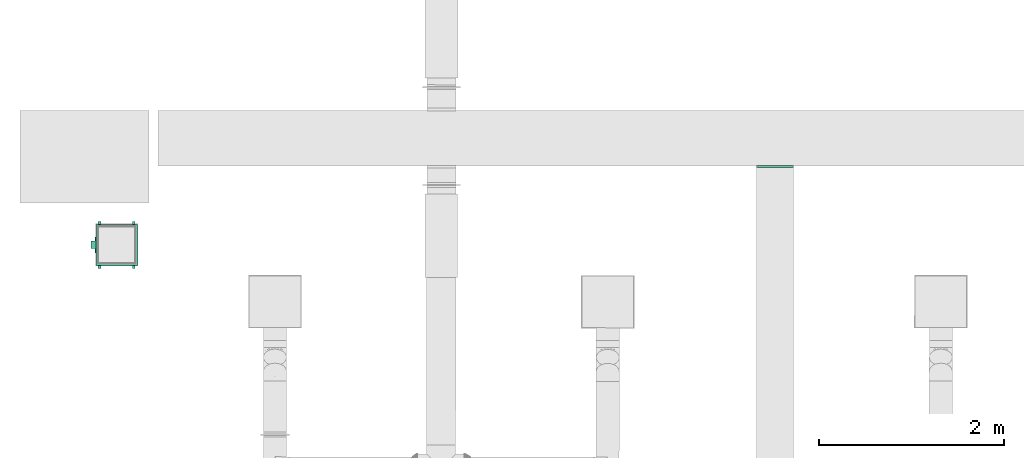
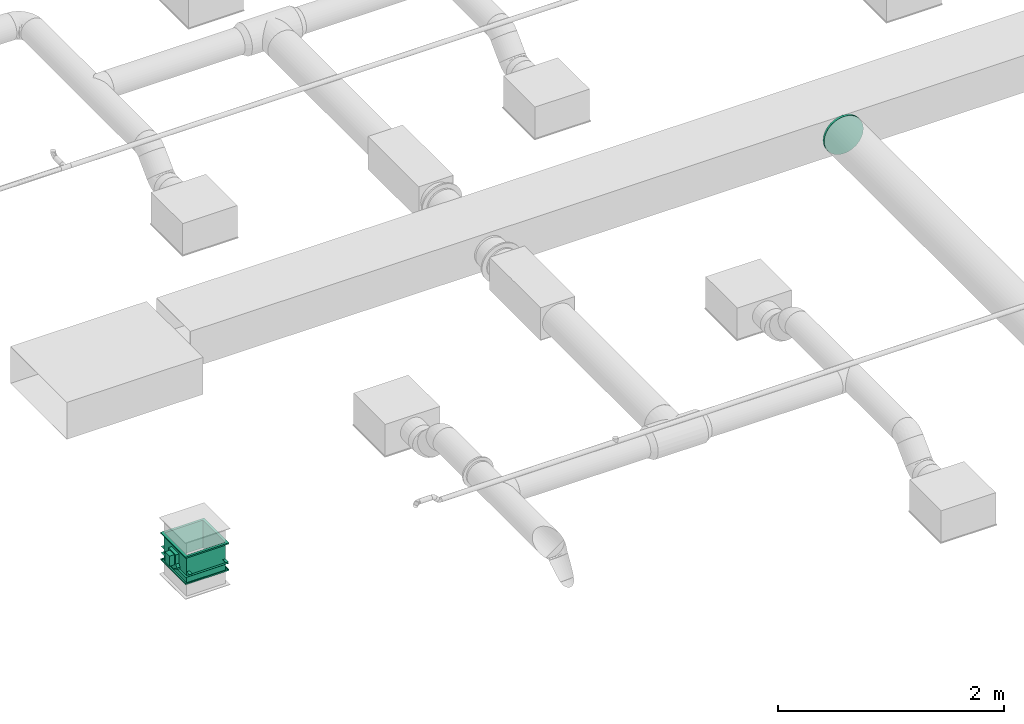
# One storey, part 58 of 63: 1 flow controller, 1 flow fitting.
"""IFC2X3 building model written with IfcOpenShell, lengths in millimetres."""

from ifc_helpers import new_model, entity, si_unit, converted_unit, derived_unit, direction, frame, origin_with_axes, place, context, subcontext, project, spatial, open_shell, surface_model, source, transform, mapped, type_object, element, save


model = new_model("IFC2X3")

# Units and contexts
model_context = context("Model", 3, precision=0.01, world=frame((0.0, 4.29681676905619e-09, 0.0)), true_north=direction((4.01073788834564e-13, 1.0)))
plan_context = context("Plan", 3, precision=0.01, world=frame((0.0, 4.29681676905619e-09, 0.0)), true_north=direction((4.01073788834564e-13, 1.0)))
body_context = subcontext(model_context, "Body", "Model", "MODEL_VIEW")
ifc_project = project(units=[converted_unit("PLANEANGLEUNIT", "DEGREE", entity("IfcPositiveLengthMeasure", 0.0174532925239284), si_unit("PLANEANGLEUNIT", "RADIAN"), dimensions=[0, 0, 0, 0, 0, 0, 0]), si_unit("AREAUNIT", "SQUARE_METRE"), si_unit("LENGTHUNIT", "METRE", prefix="MILLI"), si_unit("MASSUNIT", "GRAM", prefix="KILO"), si_unit("POWERUNIT", "WATT"), si_unit("PRESSUREUNIT", "PASCAL"), si_unit("FORCEUNIT", "NEWTON", prefix="KILO"), si_unit("ELECTRICVOLTAGEUNIT", "VOLT"), si_unit("ELECTRICCURRENTUNIT", "AMPERE"), si_unit("THERMODYNAMICTEMPERATUREUNIT", "DEGREE_CELSIUS"), si_unit("TIMEUNIT", "SECOND"), si_unit("VOLUMEUNIT", "CUBIC_METRE"), derived_unit("LINEARVELOCITYUNIT", [(si_unit("LENGTHUNIT", "METRE"), 1), (si_unit("TIMEUNIT", "SECOND"), -1)]), derived_unit("VOLUMETRICFLOWRATEUNIT", [(si_unit("VOLUMEUNIT", "CUBIC_METRE"), 1), (si_unit("TIMEUNIT", "SECOND"), -1)]), derived_unit("THERMALTRANSMITTANCEUNIT", [(si_unit("POWERUNIT", "WATT"), 1), (si_unit("THERMODYNAMICTEMPERATUREUNIT", "KELVIN"), -1), (si_unit("AREAUNIT", "SQUARE_METRE"), -1)]), derived_unit("SOUNDPRESSUREUNIT", [(si_unit("PRESSUREUNIT", "PASCAL"), 1)])], contexts=[model_context, plan_context])

# Site, building, storey
site_placement = place(None, frame((0.0, -4.29681676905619e-09, 0.0), z_axis=(0.0, 0.0, 1.0), x_axis=(1.0, 0.0, 0.0)))
site = spatial("IfcSite", under=ifc_project, at=site_placement, CompositionType="ELEMENT")
building_placement = place(site_placement, frame((0.0, 4.29681676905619e-09, 0.0), z_axis=(0.0, 0.0, 1.0), x_axis=(1.0, 0.0, 0.0)))
building = spatial("IfcBuilding", under=site, at=building_placement, Name="mc-building", CompositionType="ELEMENT")
storey_placement = place(building_placement, frame((0.0, 0.0, 210900.0), z_axis=(0.0, 0.0, 1.0), x_axis=(1.0, 0.0, 0.0)))
storey = spatial("IfcBuildingStorey", under=building, at=storey_placement, Name="Nivå F", CompositionType="ELEMENT", Elevation=210900.0)

# Flow controller
damper_type = type_object("IfcDamperType", Name="ABC-CU-LT 400 400 Belimo 24V", PredefinedType="FIREDAMPER")
shared_shape_1 = source(origin_with_axes(), body_context, "Body", "SurfaceModel", [
    surface_model("IfcShellBasedSurfaceModel", [(136.0, 0.0, 214.99999), (136.0, 0.0, 222.0), (138.0, 0.0, 220.0), (138.0, 0.0, 214.99999), (148.0, 0.0, 198.0), (126.0, 0.0, 197.0), (126.0, 0.0, 198.0), (148.0, 0.0, 220.0), (150.0, 0.0, 197.0), (150.0, 0.0, 222.0), (150.0, -222.0, 222.0), (136.0, -222.0, 222.0), (150.0, -197.0, 197.0), (150.0, 0.0, -222.0), (150.0, 0.0, -197.0), (150.0, -197.0, -197.0), (150.0, -222.0, -222.0), (126.0, -197.0, 197.0), (126.0, 0.0, -197.0), (126.0, 0.0, -198.0), (126.0, -197.0, -197.0), (126.0, -198.0, -198.0), (126.0, -198.0, 198.0), (148.0, -198.0, 198.0), (148.0, 0.0, -198.0), (148.0, 0.0, -220.0), (148.0, -198.0, -198.0), (148.0, -220.0, -220.0), (148.0, -220.0, 220.0), (138.0, -220.0, 220.0), (138.0, -214.99999, 214.99999), (138.0, 0.0, -220.0), (138.0, 0.0, -214.99999), (138.0, -214.99999, -214.99999), (138.0, -220.0, -220.0), (136.0, -214.99999, 214.99999), (136.0, 0.0, -214.99999), (136.0, 0.0, -222.0), (136.0, -214.99999, -214.99999), (136.0, -222.0, -222.0), (136.0, 214.99999, 214.99999), (136.0, 214.99999, -214.99999), (136.0, 222.0, 222.0), (136.0, 222.0, -222.0), (138.0, 214.99999, 214.99999), (138.0, 214.99999, -214.99999), (138.0, 220.0, -220.0), (138.0, 220.0, 220.0), (148.0, 220.0, 220.0), (148.0, 198.0, 198.0), (148.0, 198.0, -198.0), (148.0, 220.0, -220.0), (126.0, 198.0, 198.0), (126.0, 197.0, 197.0), (126.0, 197.0, -197.0), (126.0, 198.0, -198.0), (150.0, 197.0, 197.0), (150.0, 197.0, -197.0), (150.0, 222.0, -222.0), (150.0, 222.0, 222.0), (-148.0, 0.0, 220.0), (-148.0, 0.0, 198.0), (-150.0, 0.0, 197.0), (-126.0, 0.0, 197.0), (-150.0, 0.0, 222.0), (-136.0, 0.0, 222.0), (-136.0, 0.0, 214.99999), (-138.0, 0.0, 220.0), (-138.0, 0.0, 214.99999), (-126.0, 0.0, 198.0), (-136.0, -214.99999, 214.99999), (-136.0, 0.0, -222.0), (-136.0, 0.0, -214.99999), (-136.0, -214.99999, -214.99999), (-136.0, -222.0, 222.0), (-136.0, -222.0, -222.0), (-138.0, -214.99999, 214.99999), (-138.0, 0.0, -214.99999), (-138.0, 0.0, -220.0), (-138.0, -214.99999, -214.99999), (-138.0, -220.0, -220.0), (-138.0, -220.0, 220.0), (-148.0, -220.0, 220.0), (-148.0, -198.0, 198.0), (-148.0, 0.0, -220.0), (-148.0, 0.0, -198.0), (-148.0, -198.0, -198.0), (-148.0, -220.0, -220.0), (-126.0, -198.0, 198.0), (-126.0, -197.0, 197.0), (-126.0, 0.0, -198.0), (-126.0, 0.0, -197.0), (-126.0, -197.0, -197.0), (-126.0, -198.0, -198.0), (-150.0, -197.0, 197.0), (-150.0, 0.0, -197.0), (-150.0, 0.0, -222.0), (-150.0, -197.0, -197.0), (-150.0, -222.0, -222.0), (-150.0, -222.0, 222.0), (-150.0, 222.0, 222.0), (-136.0, 222.0, 222.0), (-150.0, 197.0, 197.0), (-150.0, 197.0, -197.0), (-150.0, 222.0, -222.0), (-126.0, 197.0, 197.0), (-126.0, 197.0, -197.0), (-126.0, 198.0, -198.0), (-126.0, 198.0, 198.0), (-148.0, 198.0, 198.0), (-148.0, 198.0, -198.0), (-148.0, 220.0, -220.0), (-148.0, 220.0, 220.0), (-138.0, 220.0, 220.0), (-138.0, 214.99999, 214.99999), (-138.0, 214.99999, -214.99999), (-138.0, 220.0, -220.0), (-136.0, 214.99999, 214.99999), (-136.0, 214.99999, -214.99999), (-136.0, 222.0, -222.0), (148.0, -200.0, -200.0), (148.0, -197.0, -197.0), (148.0, -197.0, 197.0), (148.0, 197.0, -197.0), (148.0, -200.0, 200.0), (148.0, 197.0, 197.0), (148.0, 200.0, -200.0), (148.0, 200.0, 200.0), (-148.0, 200.0, -200.0), (-148.0, 197.0, -197.0), (-148.0, 197.0, 197.0), (-148.0, -197.0, -197.0), (-148.0, 200.0, 200.0), (-148.0, -197.0, 197.0), (-148.0, -200.0, -200.0), (-148.0, -200.0, 200.0), (72.0, -220.0, -222.0), (72.0, -198.0, -198.0), (72.0, -198.0, 198.0), (72.0, 198.0, -198.0), (72.0, -220.0, 222.0), (72.0, 198.0, 198.0), (72.0, 220.0, -222.0), (72.0, 220.0, 222.0), (70.0, 220.0, -222.0), (70.0, 198.0, -198.0), (70.0, 198.0, 198.0), (70.0, -198.0, -198.0), (70.0, 220.0, 222.0), (70.0, -198.0, 198.0), (70.0, -220.0, -222.0), (70.0, -220.0, 222.0), (-83.0, -233.0, -66.0), (17.0, -233.0, -66.0), (-83.0, -233.0, 66.0), (17.0, -233.0, 66.0), (65.0, -233.0, -86.0), (65.0, -233.0, 86.0), (47.0, -233.0, 86.0), (47.0, -233.0, -86.0), (17.0, -200.0, 66.0), (65.0, -200.0, 86.0), (65.0, -200.0, -86.0), (47.0, -200.0, 86.0), (47.0, -200.0, -86.0), (17.0, -200.0, -66.0), (-83.0, -200.0, -66.0), (-83.0, -200.0, 66.0), (90.0, -225.0, 25.0), (65.0, -225.0, 66.0), (65.0, -225.0, -66.0), (100.0, -225.0, 25.0), (100.0, -225.0, -25.0), (90.0, -225.0, -25.0), (90.0, -200.0, -25.0), (65.0, -200.0, -66.0), (65.0, -200.0, 66.0), (100.0, -200.0, -25.0), (100.0, -200.0, 25.0), (90.0, -200.0, 25.0), (39.0, -233.0, -40.0), (-71.0, -233.0, -40.0), (39.0, -233.0, 40.0), (-71.0, -233.0, 40.0), (39.0, -281.0, 40.0), (-71.0, -281.0, 40.0), (39.0, -281.0, -40.0), (-71.0, -281.0, -40.0), (28.0, 200.0, 253.0), (28.0, 200.0, 200.0), (28.0, 170.0, 200.0), (28.0, 170.0, 253.0), (30.0, 170.0, 253.0), (30.0, 170.0, 200.0), (30.0, 200.0, 200.0), (30.0, 200.0, 253.0), (28.0, -170.0, 253.0), (28.0, -170.0, 200.0), (28.0, -200.0, 200.0), (28.0, -200.0, 253.0), (30.0, -200.0, 253.0), (30.0, -200.0, 200.0), (30.0, -170.0, 200.0), (30.0, -170.0, 253.0), (28.0, -170.0, -200.0), (28.0, -170.0, -253.0), (28.0, -200.0, -253.0), (28.0, -200.0, -200.0), (30.0, -200.0, -200.0), (30.0, -200.0, -253.0), (30.0, -170.0, -253.0), (30.0, -170.0, -200.0), (28.0, 200.0, -200.0), (28.0, 200.0, -253.0), (28.0, 170.0, -253.0), (28.0, 170.0, -200.0), (30.0, 170.0, -200.0), (30.0, 170.0, -253.0), (30.0, 200.0, -253.0), (30.0, 200.0, -200.0)], [open_shell([[[0, 1, 2]], [[3, 0, 2]], [[4, 5, 6]], [[7, 8, 4]], [[5, 4, 8]], [[1, 9, 7]], [[8, 7, 9]], [[2, 1, 7]], [[9, 1, 10]], [[11, 10, 1]], [[8, 9, 12]], [[13, 14, 15]], [[12, 10, 15]], [[10, 12, 9]], [[15, 16, 13]], [[16, 15, 10]], [[5, 8, 17]], [[12, 17, 8]], [[18, 19, 20]], [[6, 5, 17]], [[20, 21, 17]], [[21, 20, 19]], [[17, 22, 6]], [[22, 17, 21]], [[4, 6, 22]], [[22, 23, 4]], [[24, 25, 26]], [[7, 4, 23]], [[26, 27, 23]], [[27, 26, 25]], [[23, 28, 7]], [[28, 23, 27]], [[2, 7, 29]], [[28, 29, 7]], [[3, 2, 30]], [[31, 32, 33]], [[30, 29, 33]], [[29, 30, 2]], [[33, 34, 31]], [[34, 33, 29]], [[0, 3, 35]], [[30, 35, 3]], [[36, 37, 38]], [[1, 0, 35]], [[38, 39, 35]], [[39, 38, 37]], [[35, 11, 1]], [[11, 35, 39]], [[10, 11, 39]], [[39, 16, 10]], [[17, 12, 15]], [[15, 20, 17]], [[23, 22, 21]], [[21, 26, 23]], [[29, 28, 27]], [[27, 34, 29]], [[35, 30, 33]], [[33, 38, 35]], [[31, 37, 36]], [[31, 36, 32]], [[19, 18, 24]], [[24, 14, 25]], [[14, 24, 18]], [[25, 13, 37]], [[13, 25, 14]], [[25, 37, 31]], [[16, 39, 13]], [[37, 13, 39]], [[20, 15, 18]], [[14, 18, 15]], [[26, 21, 19]], [[19, 24, 26]], [[34, 27, 31]], [[25, 31, 27]], [[38, 33, 36]], [[32, 36, 33]], [[2, 0, 3]], [[6, 5, 4]], [[2, 1, 0]], [[8, 9, 7]], [[1, 2, 7]], [[8, 7, 4]], [[5, 8, 4]], [[9, 1, 7]], [[0, 1, 40]], [[37, 36, 41]], [[40, 42, 41]], [[42, 40, 1]], [[41, 43, 37]], [[43, 41, 42]], [[3, 0, 40]], [[40, 44, 3]], [[32, 31, 45]], [[2, 3, 44]], [[45, 46, 44]], [[46, 45, 31]], [[44, 47, 2]], [[47, 44, 46]], [[7, 2, 47]], [[47, 48, 7]], [[4, 7, 49]], [[25, 24, 50]], [[49, 48, 50]], [[48, 49, 7]], [[50, 51, 25]], [[51, 50, 48]], [[6, 4, 52]], [[49, 52, 4]], [[5, 6, 53]], [[19, 18, 54]], [[53, 52, 54]], [[52, 53, 6]], [[54, 55, 19]], [[55, 54, 52]], [[8, 5, 53]], [[53, 56, 8]], [[14, 13, 57]], [[9, 8, 56]], [[57, 58, 56]], [[58, 57, 13]], [[56, 59, 9]], [[59, 56, 58]], [[1, 9, 42]], [[59, 42, 9]], [[44, 40, 45]], [[41, 45, 40]], [[48, 47, 51]], [[46, 51, 47]], [[52, 49, 50]], [[50, 55, 52]], [[56, 53, 57]], [[54, 57, 53]], [[42, 59, 43]], [[58, 43, 59]], [[32, 36, 31]], [[24, 18, 19]], [[36, 37, 31]], [[25, 13, 14]], [[25, 31, 37]], [[24, 25, 14]], [[24, 14, 18]], [[25, 37, 13]], [[45, 41, 36]], [[36, 32, 45]], [[51, 46, 31]], [[31, 25, 51]], [[55, 50, 19]], [[24, 19, 50]], [[57, 54, 18]], [[18, 14, 57]], [[43, 58, 37]], [[13, 37, 58]], [[60, 61, 62]], [[63, 62, 61]], [[60, 64, 65]], [[62, 64, 60]], [[65, 66, 67]], [[68, 67, 66]], [[60, 65, 67]], [[63, 61, 69]], [[66, 65, 70]], [[71, 72, 73]], [[70, 74, 73]], [[74, 70, 65]], [[73, 75, 71]], [[75, 73, 74]], [[68, 66, 76]], [[70, 76, 66]], [[77, 78, 79]], [[67, 68, 76]], [[79, 80, 76]], [[80, 79, 78]], [[76, 81, 67]], [[81, 76, 80]], [[60, 67, 82]], [[81, 82, 67]], [[61, 60, 83]], [[84, 85, 86]], [[83, 82, 86]], [[82, 83, 60]], [[86, 87, 84]], [[87, 86, 82]], [[69, 61, 83]], [[83, 88, 69]], [[63, 69, 89]], [[90, 91, 92]], [[89, 88, 92]], [[88, 89, 69]], [[92, 93, 90]], [[93, 92, 88]], [[62, 63, 94]], [[89, 94, 63]], [[95, 96, 97]], [[64, 62, 94]], [[97, 98, 94]], [[98, 97, 96]], [[94, 99, 64]], [[99, 94, 98]], [[65, 64, 74]], [[99, 74, 64]], [[76, 70, 73]], [[73, 79, 76]], [[82, 81, 80]], [[80, 87, 82]], [[88, 83, 86]], [[86, 93, 88]], [[94, 89, 92]], [[92, 97, 94]], [[74, 99, 98]], [[98, 75, 74]], [[95, 85, 84]], [[85, 95, 91]], [[71, 96, 84]], [[84, 96, 95]], [[78, 72, 71]], [[72, 78, 77]], [[78, 71, 84]], [[90, 85, 91]], [[79, 73, 77]], [[72, 77, 73]], [[87, 80, 84]], [[78, 84, 80]], [[93, 86, 85]], [[85, 90, 93]], [[97, 92, 95]], [[91, 95, 92]], [[75, 98, 71]], [[96, 71, 98]], [[62, 60, 64]], [[62, 61, 60]], [[63, 61, 62]], [[65, 64, 60]], [[66, 65, 67]], [[60, 67, 65]], [[61, 63, 69]], [[68, 66, 67]], [[64, 65, 100]], [[101, 100, 65]], [[62, 64, 102]], [[96, 95, 103]], [[102, 100, 103]], [[100, 102, 64]], [[103, 104, 96]], [[104, 103, 100]], [[63, 62, 102]], [[102, 105, 63]], [[91, 90, 106]], [[69, 63, 105]], [[106, 107, 105]], [[107, 106, 90]], [[105, 108, 69]], [[108, 105, 107]], [[61, 69, 109]], [[108, 109, 69]], [[85, 84, 110]], [[60, 61, 109]], [[110, 111, 109]], [[111, 110, 84]], [[109, 112, 60]], [[112, 109, 111]], [[67, 60, 112]], [[112, 113, 67]], [[68, 67, 114]], [[78, 77, 115]], [[114, 113, 115]], [[113, 114, 67]], [[115, 116, 78]], [[116, 115, 113]], [[66, 68, 114]], [[114, 117, 66]], [[72, 71, 118]], [[65, 66, 117]], [[118, 119, 117]], [[119, 118, 71]], [[117, 101, 65]], [[101, 117, 119]], [[100, 101, 104]], [[119, 104, 101]], [[105, 102, 106]], [[103, 106, 102]], [[109, 108, 107]], [[107, 110, 109]], [[113, 112, 116]], [[111, 116, 112]], [[117, 114, 118]], [[115, 118, 114]], [[96, 84, 95]], [[84, 85, 95]], [[95, 85, 91]], [[84, 96, 71]], [[78, 71, 72]], [[71, 78, 84]], [[90, 91, 85]], [[78, 72, 77]], [[104, 119, 96]], [[71, 96, 119]], [[106, 103, 95]], [[95, 91, 106]], [[110, 107, 85]], [[90, 85, 107]], [[116, 111, 84]], [[84, 78, 116]], [[118, 115, 77]], [[77, 72, 118]], [[120, 121, 122]], [[121, 120, 123]], [[124, 122, 125]], [[122, 124, 120]], [[123, 126, 125]], [[126, 123, 120]], [[125, 127, 124]], [[127, 125, 126]], [[128, 129, 130]], [[129, 128, 131]], [[132, 130, 133]], [[130, 132, 128]], [[131, 134, 133]], [[134, 131, 128]], [[133, 135, 132]], [[135, 133, 134]], [[126, 120, 128]], [[134, 128, 120]], [[127, 126, 128]], [[128, 132, 127]], [[124, 127, 135]], [[132, 135, 127]], [[120, 124, 135]], [[135, 134, 120]], [[122, 121, 131]], [[131, 133, 122]], [[125, 122, 133]], [[133, 130, 125]], [[123, 125, 130]], [[130, 129, 123]], [[121, 123, 129]], [[129, 131, 121]], [[136, 137, 138]], [[137, 136, 139]], [[140, 138, 141]], [[138, 140, 136]], [[139, 142, 141]], [[142, 139, 136]], [[141, 143, 140]], [[143, 141, 142]], [[144, 145, 146]], [[145, 144, 147]], [[148, 146, 149]], [[146, 148, 144]], [[147, 150, 149]], [[150, 147, 144]], [[149, 151, 148]], [[151, 149, 150]], [[142, 136, 150]], [[150, 144, 142]], [[143, 142, 144]], [[144, 148, 143]], [[140, 143, 148]], [[148, 151, 140]], [[136, 140, 151]], [[151, 150, 136]], [[138, 137, 147]], [[147, 149, 138]], [[141, 138, 149]], [[149, 146, 141]], [[139, 141, 146]], [[146, 145, 139]], [[137, 139, 145]], [[145, 147, 137]], [[152, 153, 154]], [[155, 154, 153]], [[153, 156, 155]], [[157, 155, 156]], [[158, 155, 157]], [[156, 153, 159]], [[160, 161, 162]], [[160, 163, 161]], [[162, 164, 165]], [[165, 166, 167]], [[167, 160, 165]], [[165, 160, 162]], [[164, 162, 159]], [[156, 159, 162]], [[165, 164, 159]], [[159, 153, 165]], [[166, 165, 153]], [[153, 152, 166]], [[167, 166, 152]], [[152, 154, 167]], [[160, 167, 154]], [[154, 155, 160]], [[163, 160, 155]], [[155, 158, 163]], [[161, 163, 157]], [[158, 157, 163]], [[162, 161, 157]], [[157, 156, 162]], [[168, 169, 170]], [[171, 168, 172]], [[170, 173, 168]], [[173, 172, 168]], [[174, 175, 176]], [[177, 174, 178]], [[176, 179, 174]], [[179, 178, 174]], [[176, 175, 170]], [[170, 169, 176]], [[179, 176, 169]], [[169, 168, 179]], [[178, 179, 171]], [[168, 171, 179]], [[177, 178, 171]], [[171, 172, 177]], [[174, 177, 173]], [[172, 173, 177]], [[175, 174, 173]], [[173, 170, 175]], [[180, 181, 182]], [[183, 182, 181]], [[184, 185, 186]], [[187, 186, 185]], [[183, 181, 187]], [[187, 185, 183]], [[182, 183, 184]], [[185, 184, 183]], [[180, 182, 184]], [[184, 186, 180]], [[181, 180, 187]], [[186, 187, 180]], [[188, 189, 190]], [[190, 191, 188]], [[192, 193, 194]], [[194, 195, 192]], [[194, 193, 190]], [[190, 189, 194]], [[195, 194, 189]], [[189, 188, 195]], [[192, 195, 188]], [[188, 191, 192]], [[193, 192, 191]], [[191, 190, 193]], [[196, 197, 198]], [[198, 199, 196]], [[200, 201, 202]], [[202, 203, 200]], [[202, 201, 198]], [[198, 197, 202]], [[203, 202, 197]], [[197, 196, 203]], [[200, 203, 196]], [[196, 199, 200]], [[201, 200, 199]], [[199, 198, 201]], [[204, 205, 206]], [[206, 207, 204]], [[208, 209, 210]], [[210, 211, 208]], [[210, 209, 206]], [[206, 205, 210]], [[211, 210, 205]], [[205, 204, 211]], [[208, 211, 204]], [[204, 207, 208]], [[209, 208, 207]], [[207, 206, 209]], [[212, 213, 214]], [[214, 215, 212]], [[216, 217, 218]], [[218, 219, 216]], [[218, 217, 214]], [[214, 213, 218]], [[219, 218, 213]], [[213, 212, 219]], [[216, 219, 212]], [[212, 215, 216]], [[217, 216, 215]], [[215, 214, 217]]])]),
])
flow_controller_placement = place(storey_placement, frame((521591.3203, 455014.4619, 2696.71900000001), z_axis=(0.0, -1.0, 0.0), x_axis=(0.0, 0.0, -1.0)))
element("IfcFlowController", 1, at=flow_controller_placement, inside=storey, type_object=damper_type, Name="ABC-CU-LT 400 400 Belimo 24V", context=body_context, shape_type="MappedRepresentation", body=[
    mapped(shared_shape_1, transform((0.0, 0.0, 0.0), scale=1.0)),
])

# Flow fitting
duct_fitting_type = type_object("IfcDuctFittingType", Name="magicirc_tapoutlet_001", PredefinedType="CONNECTOR")
shared_shape_2 = source(origin_with_axes(), body_context, "Body", "SurfaceModel", [
    surface_model("IfcShellBasedSurfaceModel", [(20.0, 200.0, 0.0), (20.0, 124.69796, -156.36629), (20.0, 156.36629, -124.69796), (20.0, 180.19378, -86.77674), (20.0, 194.98559, -44.50419), (0.0, 180.19378, -86.77674), (0.0, 194.98559, -44.50419), (20.0, -180.19378, -86.77674), (0.0, -194.98559, -44.50419), (0.0, -180.19378, -86.77674), (20.0, -194.98559, 44.50419), (20.0, -194.98559, -44.50419), (-6.096, -180.19378, -86.77674), (-6.096, -194.98559, -44.50419), (-6.096, -200.0, 0.0), (-6.096, -124.69796, -156.36629), (-6.096, -156.36629, -124.69796), (-6.096, 200.0, 0.0), (0.0, 200.0, 0.0), (-6.096, 180.19378, -86.77674), (-6.096, 194.98559, -44.50419), (0.0, -200.0, 0.0), (-6.096, 194.98559, 44.50419), (-6.096, 0.0, -200.0), (-6.096, -44.50419, -194.98559), (-6.096, -86.77674, -180.19378), (-6.096, 156.36629, -124.69796), (-6.096, 86.77674, -180.19378), (-6.096, 44.50419, -194.98559), (-6.096, 124.69796, -156.36629), (-6.096, -194.98559, 44.50419), (-6.096, -180.19378, 86.77674), (-6.096, -156.36629, 124.69796), (-6.096, -124.69796, 156.36629), (-6.096, -86.77674, 180.19378), (-6.096, -44.50419, 194.98559), (-6.096, 156.36629, 124.69796), (-6.096, 180.19378, 86.77674), (-6.096, 124.69796, 156.36629), (-6.096, 86.77674, 180.19378), (-6.096, 44.50419, 194.98559), (-6.096, 0.0, 200.0), (0.0, -44.50419, 194.98559), (0.0, 0.0, 200.0), (0.0, -86.77674, 180.19378), (0.0, -124.69796, 156.36629), (0.0, -156.36629, 124.69796), (0.0, -180.19378, 86.77674), (0.0, -194.98559, 44.50419), (0.0, -156.36629, -124.69796), (0.0, -124.69796, -156.36629), (0.0, -86.77674, -180.19378), (0.0, -44.50419, -194.98559), (0.0, 0.0, -200.0), (0.0, 44.50419, -194.98559), (0.0, 86.77674, -180.19378), (0.0, 124.69796, -156.36629), (0.0, 156.36629, -124.69796), (0.0, 194.98559, 44.50419), (0.0, 180.19378, 86.77674), (0.0, 156.36629, 124.69796), (0.0, 124.69796, 156.36629), (0.0, 86.77674, 180.19378), (0.0, 44.50419, 194.98559), (20.0, 0.0, -200.0), (20.0, 44.50419, -194.98559), (20.0, -44.50419, -194.98559), (20.0, -86.77674, -180.19378), (20.0, -156.36629, -124.69796), (20.0, -124.69796, -156.36629), (20.0, 194.98559, 44.50419), (20.0, 86.77674, -180.19378), (20.0, -180.19378, 86.77674), (20.0, -156.36629, 124.69796), (20.0, -86.77674, 180.19378), (20.0, -124.69796, 156.36629), (20.0, -44.50419, 194.98559), (20.0, 0.0, 200.0), (20.0, 156.36629, 124.69796), (20.0, 180.19378, 86.77674), (20.0, 86.77674, 180.19378), (20.0, 44.50419, 194.98559), (20.0, 124.69796, 156.36629), (20.0, -200.0, 0.0)], [open_shell([[[0, 1, 2]], [[3, 4, 0]], [[5, 6, 3]], [[7, 8, 9]], [[10, 11, 7]], [[12, 13, 14]], [[14, 15, 16]], [[17, 18, 6]], [[19, 20, 5]], [[8, 21, 14]], [[9, 13, 12]], [[20, 19, 22]], [[23, 24, 25]], [[14, 23, 25]], [[16, 12, 14]], [[14, 25, 15]], [[26, 23, 22]], [[23, 27, 28]], [[23, 29, 27]], [[29, 23, 26]], [[26, 22, 19]], [[20, 22, 17]], [[14, 30, 31]], [[32, 23, 31]], [[32, 33, 34]], [[35, 23, 34]], [[23, 32, 34]], [[23, 35, 36]], [[36, 37, 23]], [[22, 23, 37]], [[36, 35, 38]], [[38, 35, 39]], [[40, 39, 35]], [[41, 40, 35]], [[23, 14, 31]], [[42, 43, 41]], [[35, 44, 42]], [[44, 34, 45]], [[35, 42, 41]], [[44, 35, 34]], [[45, 34, 33]], [[33, 46, 45]], [[47, 46, 32]], [[31, 48, 47]], [[48, 30, 21]], [[31, 47, 32]], [[48, 31, 30]], [[21, 30, 14]], [[33, 32, 46]], [[13, 9, 8]], [[9, 12, 49]], [[13, 8, 14]], [[49, 12, 16]], [[16, 50, 49]], [[15, 51, 50]], [[24, 52, 51]], [[53, 52, 23]], [[25, 51, 15]], [[24, 51, 25]], [[24, 23, 52]], [[16, 15, 50]], [[54, 53, 23]], [[28, 55, 54]], [[55, 27, 56]], [[28, 54, 23]], [[55, 28, 27]], [[56, 27, 29]], [[29, 57, 56]], [[26, 5, 57]], [[20, 6, 5]], [[19, 5, 26]], [[6, 20, 17]], [[29, 26, 57]], [[58, 18, 17]], [[22, 59, 58]], [[59, 37, 60]], [[22, 58, 17]], [[59, 22, 37]], [[60, 37, 36]], [[36, 61, 60]], [[62, 61, 38]], [[63, 62, 39]], [[43, 63, 40]], [[39, 62, 38]], [[63, 39, 40]], [[43, 40, 41]], [[36, 38, 61]], [[64, 65, 66]], [[66, 10, 67]], [[10, 7, 68]], [[68, 69, 10]], [[69, 67, 10]], [[66, 0, 70]], [[1, 0, 71]], [[66, 65, 71]], [[0, 2, 3]], [[71, 0, 66]], [[66, 72, 10]], [[66, 73, 72]], [[74, 75, 73]], [[74, 66, 76]], [[74, 73, 66]], [[76, 66, 77]], [[78, 77, 79]], [[66, 70, 79]], [[80, 81, 77]], [[77, 82, 80]], [[78, 82, 77]], [[66, 79, 77]], [[83, 11, 10]], [[76, 77, 43]], [[42, 74, 76]], [[74, 44, 75]], [[42, 76, 43]], [[74, 42, 44]], [[75, 44, 45]], [[45, 73, 75]], [[72, 73, 46]], [[47, 10, 72]], [[10, 48, 83]], [[47, 72, 46]], [[10, 47, 48]], [[83, 48, 21]], [[45, 46, 73]], [[11, 83, 21]], [[8, 7, 11]], [[7, 9, 68]], [[8, 11, 21]], [[68, 9, 49]], [[49, 69, 68]], [[50, 67, 69]], [[52, 66, 67]], [[64, 66, 53]], [[51, 67, 50]], [[67, 51, 52]], [[66, 52, 53]], [[49, 50, 69]], [[65, 64, 53]], [[54, 71, 65]], [[71, 55, 1]], [[54, 65, 53]], [[71, 54, 55]], [[1, 55, 56]], [[56, 2, 1]], [[57, 3, 2]], [[6, 0, 4]], [[6, 4, 3]], [[5, 3, 57]], [[0, 6, 18]], [[56, 57, 2]], [[70, 0, 18]], [[58, 79, 70]], [[79, 59, 78]], [[58, 70, 18]], [[79, 58, 59]], [[78, 59, 60]], [[60, 82, 78]], [[80, 82, 61]], [[62, 81, 80]], [[81, 63, 77]], [[62, 80, 61]], [[81, 62, 63]], [[77, 63, 43]], [[60, 61, 82]], [[10, 68, 67]], [[68, 69, 67]], [[25, 15, 14]], [[33, 34, 23]], [[23, 34, 35]], [[32, 33, 23]], [[35, 39, 38]], [[14, 31, 23]]])]),
])
flow_fitting_placement = place(storey_placement, frame((528713.30719, 455869.0, 4200.0), z_axis=(0.0, 0.0, -1.0), x_axis=(0.0, -1.0, 0.0)))
element("IfcFlowFitting", 2, at=flow_fitting_placement, inside=storey, type_object=duct_fitting_type, Name="magicirc_tapoutlet_001", context=body_context, shape_type="MappedRepresentation", body=[
    mapped(shared_shape_2, transform((0.0, 0.0, 0.0), scale=1.0)),
])

save(model, "model.ifc")
